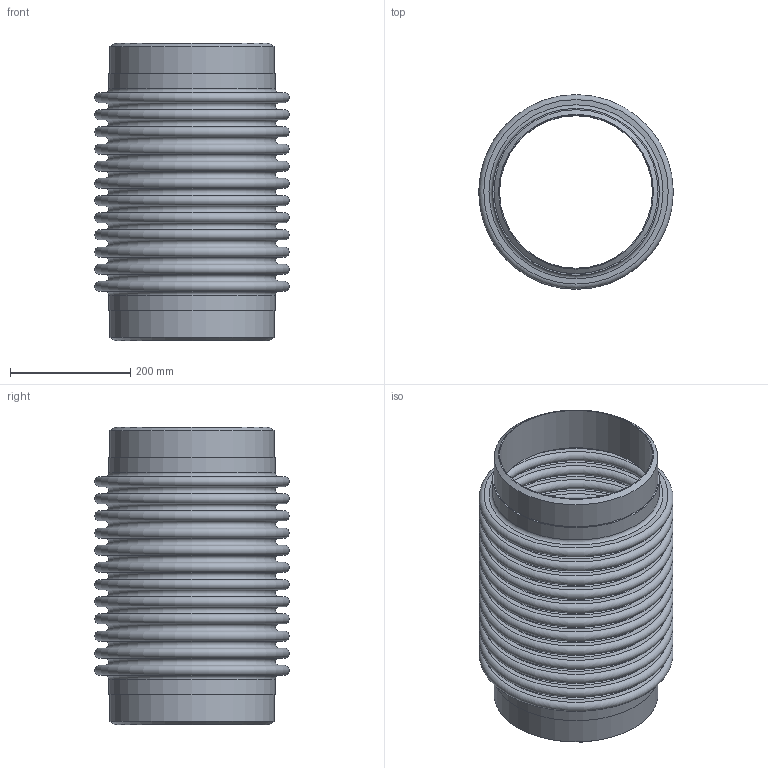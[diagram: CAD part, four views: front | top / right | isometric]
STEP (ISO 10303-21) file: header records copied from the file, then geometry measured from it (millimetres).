
FILE_DESCRIPTION(/* description */ ('EXPANSION JOINT,SINGLE, WELD ENDS,4 INCH NOMINAL'),/* implementation_level */ '2;1');
FILE_NAME(/* name */ 'ASSEMBLY US-10-12-300L.stp',/* time_stamp */ '2026-07-28T16:37:32-05:00',/* author */ ('jorgef'),/* organization */ (''),/* preprocessor_version */ 'ST-DEVELOPER v20.1',/* originating_system */ 'Autodesk Inventor 2026',/* authorisation */ '');
FILE_SCHEMA (('AUTOMOTIVE_DESIGN { 1 0 10303 214 3 1 1 }'));
Length unit declared in the file: inch
Products named in the file (3): ASSEMBLY  US-10-12-300L; STOCK BELLOW - US-10-12-300L; PIPE- US-10-12-300L
Assembly tree (3 placements, depth 2):
  ASSEMBLY  US-10-12-300L
    STOCK BELLOW - US-10-12-300L
    PIPE- US-10-12-300L  x2
Bounding box: 323.85 x 323.85 x 495.3 mm (x, y, z)
Volume: 2947320 mm3; surface area: 1777550.9 mm2
Topology: 5 solids, 5 shells, 118 faces, 180 edges, 121 vertices
Faces by surface type: plane 58, torus 50, cylinder 8, cone 2
Full cylindrical faces by diameter (mm): 254.508 x2, 273.05 x4, 277.927 x2
Entity records: 2769 total; most frequent: DIRECTION 573, CARTESIAN_POINT 405, ORIENTED_EDGE 342, AXIS2_PLACEMENT_3D 283, EDGE_CURVE 171, EDGE_LOOP 169, CIRCLE 164, VERTEX_POINT 114
